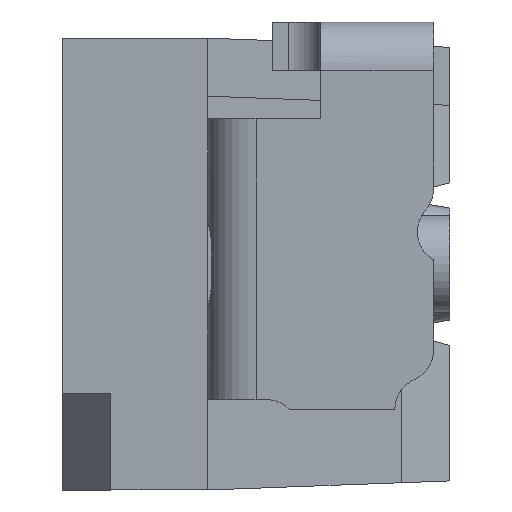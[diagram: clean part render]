
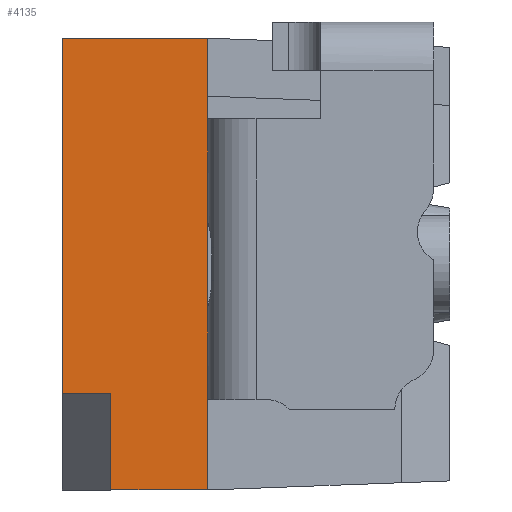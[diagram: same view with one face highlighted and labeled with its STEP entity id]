
A CAD part, left-side view. The second image highlights one B-rep face of the part: STEP entity #4135.
In plain terms, the highlighted planar face has unit normal (-1, 0, 0).
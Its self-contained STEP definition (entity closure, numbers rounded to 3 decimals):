
#70 = EDGE_CURVE ( 'NONE', #7429, #185, #9507, .T. ) ;
#93 = VECTOR ( 'NONE', #5989, 1000. ) ;
#99 = CARTESIAN_POINT ( 'NONE',  ( -1.35, 0.45, 0.7 ) ) ;
#185 = VERTEX_POINT ( 'NONE', #8945 ) ;
#310 = ORIENTED_EDGE ( 'NONE', *, *, #7027, .F. ) ;
#405 = DIRECTION ( 'NONE',  ( 0., 0., 1. ) ) ;
#452 = VERTEX_POINT ( 'NONE', #4090 ) ;
#504 = LINE ( 'NONE', #7328, #2706 ) ;
#681 = PLANE ( 'NONE',  #1916 ) ;
#719 = DIRECTION ( 'NONE',  ( 0., -1., 0. ) ) ;
#829 = ORIENTED_EDGE ( 'NONE', *, *, #7825, .F. ) ;
#1058 = LINE ( 'NONE', #9725, #8117 ) ;
#1156 = DIRECTION ( 'NONE',  ( 0., 0., -1. ) ) ;
#1359 = VERTEX_POINT ( 'NONE', #99 ) ;
#1437 = CARTESIAN_POINT ( 'NONE',  ( -1.35, 0., -0.7 ) ) ;
#1796 = LINE ( 'NONE', #10013, #3798 ) ;
#1849 = LINE ( 'NONE', #3425, #5687 ) ;
#1856 = VECTOR ( 'NONE', #1156, 1000. ) ;
#1916 = AXIS2_PLACEMENT_3D ( 'NONE', #5524, #4709, #2264 ) ;
#2152 = CARTESIAN_POINT ( 'NONE',  ( -1.35, 0.3, -0.4 ) ) ;
#2153 = EDGE_CURVE ( 'NONE', #6186, #185, #1849, .T. ) ;
#2208 = ORIENTED_EDGE ( 'NONE', *, *, #6338, .T. ) ;
#2231 = DIRECTION ( 'NONE',  ( 0., 0., 1. ) ) ;
#2264 = DIRECTION ( 'NONE',  ( 0., 0., -1. ) ) ;
#2702 = LINE ( 'NONE', #8422, #3596 ) ;
#2706 = VECTOR ( 'NONE', #4920, 1000. ) ;
#3227 = VECTOR ( 'NONE', #719, 1000. ) ;
#3336 = FACE_OUTER_BOUND ( 'NONE', #3393, .T. ) ;
#3393 = EDGE_LOOP ( 'NONE', ( #5619, #8621, #10246, #9098, #310, #8135, #7662, #2208, #829, #4016, #7506 ) ) ;
#3425 = CARTESIAN_POINT ( 'NONE',  ( -1.35, 0., -0.7 ) ) ;
#3505 = CARTESIAN_POINT ( 'NONE',  ( -1.35, 0.45, 0.7 ) ) ;
#3521 = VERTEX_POINT ( 'NONE', #6972 ) ;
#3596 = VECTOR ( 'NONE', #5304, 1000. ) ;
#3785 = EDGE_CURVE ( 'NONE', #452, #9235, #504, .T. ) ;
#3798 = VECTOR ( 'NONE', #2231, 1000. ) ;
#4016 = ORIENTED_EDGE ( 'NONE', *, *, #6591, .T. ) ;
#4090 = CARTESIAN_POINT ( 'NONE',  ( -1.35, 0.3, -0.7 ) ) ;
#4135 = ADVANCED_FACE ( 'NONE', ( #3336 ), #681, .F. ) ;
#4233 = DIRECTION ( 'NONE',  ( 0., 0., 1. ) ) ;
#4631 = CARTESIAN_POINT ( 'NONE',  ( -1.35, 0.45, -0.4 ) ) ;
#4709 = DIRECTION ( 'NONE',  ( 1., 0., 0. ) ) ;
#4920 = DIRECTION ( 'NONE',  ( 0., 0., 1. ) ) ;
#5052 = LINE ( 'NONE', #3505, #93 ) ;
#5188 = EDGE_CURVE ( 'NONE', #9235, #7280, #9843, .T. ) ;
#5298 = VERTEX_POINT ( 'NONE', #6316 ) ;
#5304 = DIRECTION ( 'NONE',  ( 0., 0., 1. ) ) ;
#5524 = CARTESIAN_POINT ( 'NONE',  ( -1.35, 0.45, -0.7 ) ) ;
#5578 = DIRECTION ( 'NONE',  ( 0., 0., -1. ) ) ;
#5619 = ORIENTED_EDGE ( 'NONE', *, *, #7176, .F. ) ;
#5660 = DIRECTION ( 'NONE',  ( 0., 0., -1. ) ) ;
#5687 = VECTOR ( 'NONE', #4233, 1000. ) ;
#5989 = DIRECTION ( 'NONE',  ( 0., -1., 0. ) ) ;
#6186 = VERTEX_POINT ( 'NONE', #7075 ) ;
#6316 = CARTESIAN_POINT ( 'NONE',  ( -1.35, 0., 0.45 ) ) ;
#6338 = EDGE_CURVE ( 'NONE', #7429, #5298, #1058, .T. ) ;
#6591 = EDGE_CURVE ( 'NONE', #3521, #9112, #1796, .T. ) ;
#6755 = CARTESIAN_POINT ( 'NONE',  ( -1.35, 0., 0.7 ) ) ;
#6806 = CARTESIAN_POINT ( 'NONE',  ( -1.35, 0., 0. ) ) ;
#6836 = CARTESIAN_POINT ( 'NONE',  ( -1.35, 0., 0.142 ) ) ;
#6972 = CARTESIAN_POINT ( 'NONE',  ( -1.35, 0., 0.52 ) ) ;
#7027 = EDGE_CURVE ( 'NONE', #6186, #8107, #9519, .T. ) ;
#7075 = CARTESIAN_POINT ( 'NONE',  ( -1.35, 0., -0.42 ) ) ;
#7176 = EDGE_CURVE ( 'NONE', #7280, #1359, #2702, .T. ) ;
#7280 = VERTEX_POINT ( 'NONE', #4631 ) ;
#7281 = VECTOR ( 'NONE', #5660, 1000. ) ;
#7328 = CARTESIAN_POINT ( 'NONE',  ( -1.35, 0.3, -0.7 ) ) ;
#7337 = CARTESIAN_POINT ( 'NONE',  ( -1.35, 0., 0. ) ) ;
#7418 = VECTOR ( 'NONE', #5578, 1000. ) ;
#7429 = VERTEX_POINT ( 'NONE', #6836 ) ;
#7506 = ORIENTED_EDGE ( 'NONE', *, *, #8466, .F. ) ;
#7662 = ORIENTED_EDGE ( 'NONE', *, *, #70, .F. ) ;
#7809 = CARTESIAN_POINT ( 'NONE',  ( -1.35, 0.3, -0.4 ) ) ;
#7825 = EDGE_CURVE ( 'NONE', #3521, #5298, #9266, .T. ) ;
#8003 = VECTOR ( 'NONE', #9187, 1000. ) ;
#8107 = VERTEX_POINT ( 'NONE', #1437 ) ;
#8117 = VECTOR ( 'NONE', #405, 1000. ) ;
#8135 = ORIENTED_EDGE ( 'NONE', *, *, #2153, .T. ) ;
#8422 = CARTESIAN_POINT ( 'NONE',  ( -1.35, 0.45, -0.7 ) ) ;
#8466 = EDGE_CURVE ( 'NONE', #1359, #9112, #5052, .T. ) ;
#8621 = ORIENTED_EDGE ( 'NONE', *, *, #5188, .F. ) ;
#8945 = CARTESIAN_POINT ( 'NONE',  ( -1.35, 0., -0.142 ) ) ;
#9098 = ORIENTED_EDGE ( 'NONE', *, *, #10168, .T. ) ;
#9112 = VERTEX_POINT ( 'NONE', #6755 ) ;
#9187 = DIRECTION ( 'NONE',  ( 0., 1., 0. ) ) ;
#9235 = VERTEX_POINT ( 'NONE', #7809 ) ;
#9266 = LINE ( 'NONE', #7337, #7281 ) ;
#9427 = CARTESIAN_POINT ( 'NONE',  ( -1.35, 0.45, -0.7 ) ) ;
#9507 = LINE ( 'NONE', #9640, #7418 ) ;
#9519 = LINE ( 'NONE', #6806, #1856 ) ;
#9532 = LINE ( 'NONE', #9427, #3227 ) ;
#9640 = CARTESIAN_POINT ( 'NONE',  ( -1.35, 0., 0. ) ) ;
#9725 = CARTESIAN_POINT ( 'NONE',  ( -1.35, 0., -0.7 ) ) ;
#9843 = LINE ( 'NONE', #2152, #8003 ) ;
#10013 = CARTESIAN_POINT ( 'NONE',  ( -1.35, 0., -0.7 ) ) ;
#10168 = EDGE_CURVE ( 'NONE', #452, #8107, #9532, .T. ) ;
#10246 = ORIENTED_EDGE ( 'NONE', *, *, #3785, .F. ) ;
